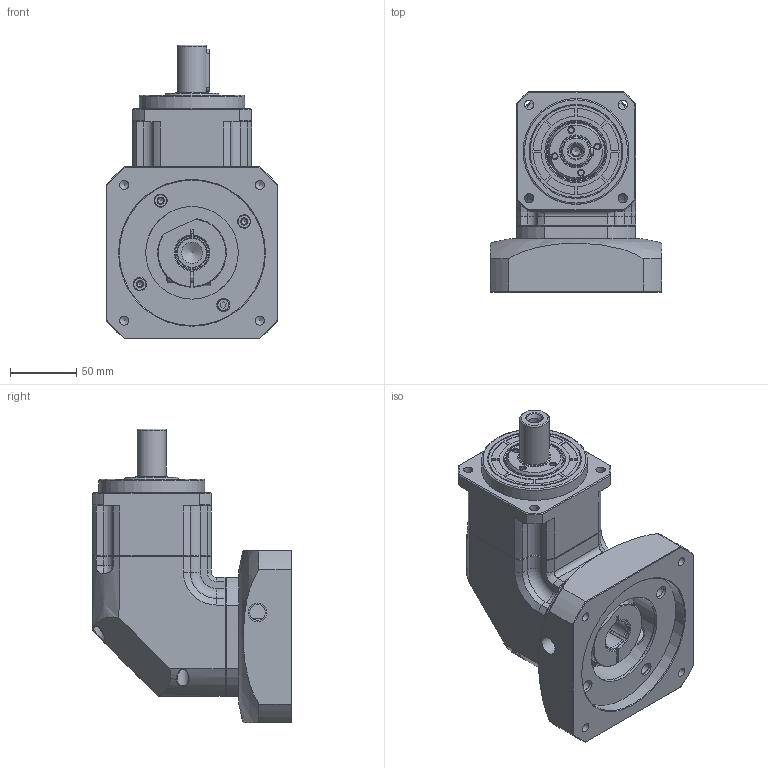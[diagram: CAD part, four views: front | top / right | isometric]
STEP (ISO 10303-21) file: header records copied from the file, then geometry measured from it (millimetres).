
FILE_DESCRIPTION(/* description */ (''),/* implementation_level */ '2;1');
FILE_NAME(/* name */ 'TBR090-L1-22-110-145-M8-61-10.stp',/* time_stamp */ '2020-11-24T17:08:46+08:00',/* author */ (''),/* organization */ (''),/* preprocessor_version */ 'ST-DEVELOPER v16',/* originating_system */ 'SIEMENS PLM Software NX 10.0',/* authorisation */ '');
FILE_SCHEMA (('CONFIG_CONTROL_DESIGN'));
Length unit declared in the file: millimetre
Products named in the file (1): _model282
Bounding box: 130 x 151 x 222 mm (x, y, z)
Volume: 1371532.2 mm3; surface area: 275514.8 mm2
Topology: 10 solids, 11 shells, 733 faces, 1773 edges, 1129 vertices
Faces by surface type: plane 315, cylinder 237, cone 129, torus 33, bspline 19
Full cylindrical faces by diameter (mm): 4 x4, 4.2 x8, 5 x2, 5.1 x4, 5.276 x6, 5.5 x12, 6.8 x6, 7 x4, 8 x1, 8.4 x1, 8.5 x3, 9 x8, 10 x4, 12 x2, 13 x2, 13.5 x1, 14 x2, 22 x3, 22.8 x1, 23 x2, 24 x1, 25 x1, 28 x1, 28.6 x1, 29 x2, 29.2 x1, 30 x3, 33 x1, 43 x1, 44 x1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
Entity records: 21483 total; most frequent: CARTESIAN_POINT 5433, DIRECTION 3372, ORIENTED_EDGE 2952, EDGE_CURVE 1476, AXIS2_PLACEMENT_3D 1390, EDGE_LOOP 1075, VERTEX_POINT 1055, ADVANCED_FACE 733
